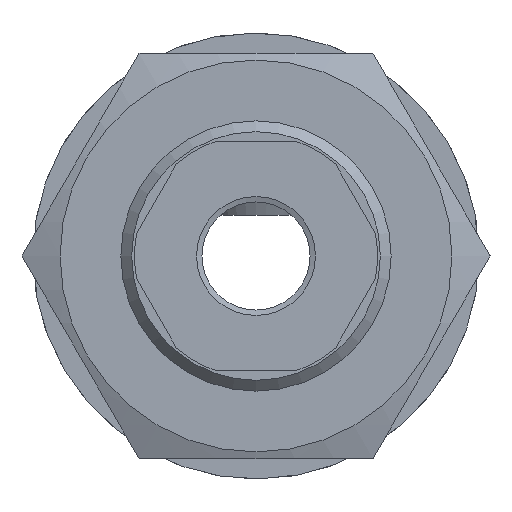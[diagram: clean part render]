
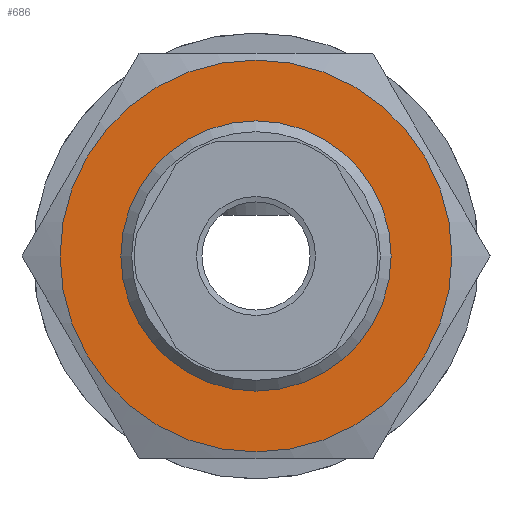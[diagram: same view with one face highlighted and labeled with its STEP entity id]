
A CAD part, front view. The second image highlights one B-rep face of the part: STEP entity #686.
In plain terms, the highlighted planar face has unit normal (0, -1, 0) as drawn and (0, 0, 1) by its records, which use the part's own axes.
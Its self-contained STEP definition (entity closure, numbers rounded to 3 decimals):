
#686=ADVANCED_FACE('',(#1133,#1134),#1135,.F.);
#1133=FACE_BOUND('',#1721,.T.);
#1134=FACE_OUTER_BOUND('',#1722,.T.);
#1135=PLANE('',#1723);
#1721=EDGE_LOOP('',(#3798));
#1722=EDGE_LOOP('',(#3799));
#1723=AXIS2_PLACEMENT_3D('',#3800,#3801,#3802);
#3798=ORIENTED_EDGE('',*,*,#5052,.F.);
#3799=ORIENTED_EDGE('',*,*,#5043,.T.);
#3800=CARTESIAN_POINT('',(8.66,-15.0,0.0));
#3801=DIRECTION('',(0.0,0.0,-1.0));
#3802=DIRECTION('',(-1.0,0.0,0.0));
#5043=EDGE_CURVE('',#5553,#5553,#5554,.T.);
#5052=EDGE_CURVE('',#5566,#5566,#5567,.F.);
#5553=VERTEX_POINT('',#6333);
#5554=CIRCLE('',#6334,14.5);
#5566=VERTEX_POINT('',#6366);
#5567=CIRCLE('',#6367,9.25);
#6333=CARTESIAN_POINT('',(14.5,0.0,0.));
#6334=AXIS2_PLACEMENT_3D('',#8501,#8502,#8503);
#6366=CARTESIAN_POINT('',(-9.25,0.,0.0));
#6367=AXIS2_PLACEMENT_3D('',#8507,#8508,#8509);
#8501=CARTESIAN_POINT('',(0.0,0.0,0.));
#8502=DIRECTION('',(0.0,0.0,1.0));
#8503=DIRECTION('',(1.0,0.0,0.0));
#8507=CARTESIAN_POINT('',(0.,0.0,0.0));
#8508=DIRECTION('',(0.0,0.0,-1.0));
#8509=DIRECTION('',(-1.0,0.0,0.0));
